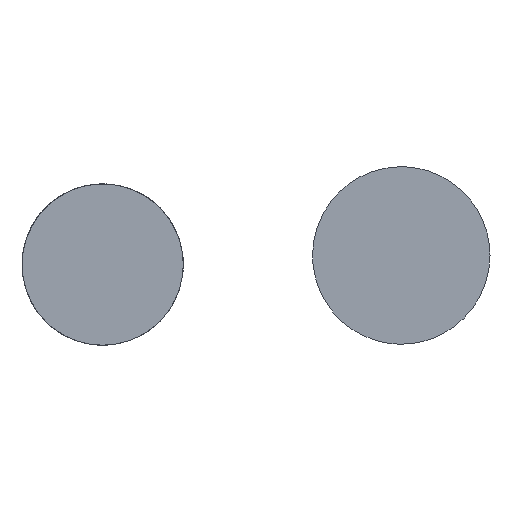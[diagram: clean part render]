
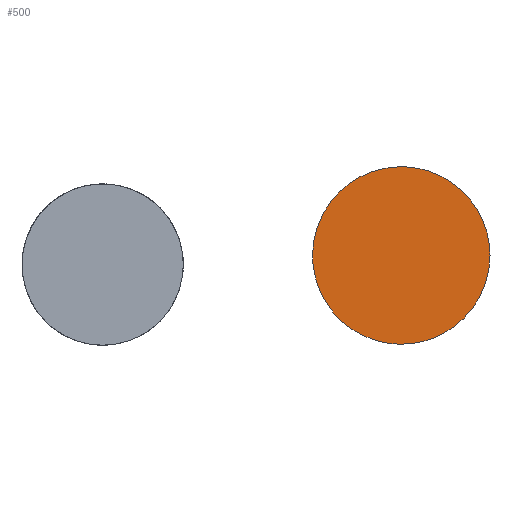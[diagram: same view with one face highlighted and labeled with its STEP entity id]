
A CAD part, top view. The second image highlights one B-rep face of the part: STEP entity #500.
In plain terms, the highlighted planar face has unit normal (0, 0, 1).
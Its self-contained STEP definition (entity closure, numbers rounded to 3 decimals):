
#500=ADVANCED_FACE('',(#1368),#14650,.T.);
#1368=FACE_OUTER_BOUND('',#2236,.T.);
#2236=EDGE_LOOP('',(#3175,#3176));
#3175=ORIENTED_EDGE('',*,*,#7818,.F.);
#3176=ORIENTED_EDGE('',*,*,#7815,.F.);
#7815=EDGE_CURVE('',#12589,#12591,#11634,.T.);
#7818=EDGE_CURVE('',#12591,#12589,#11636,.T.);
#11634=(
BOUNDED_CURVE()
B_SPLINE_CURVE(2,(#15491,#15492,#15493,#15494,#15495),.UNSPECIFIED.,.F.,
 .F.)
B_SPLINE_CURVE_WITH_KNOTS((3,2,3),(-3455.752,-2591.814,
-1727.876),.UNSPECIFIED.)
CURVE()
GEOMETRIC_REPRESENTATION_ITEM()
RATIONAL_B_SPLINE_CURVE((1.,0.707,1.,0.707,1.))
REPRESENTATION_ITEM('')
);
#11636=(
BOUNDED_CURVE()
B_SPLINE_CURVE(2,(#15503,#15504,#15505,#15506,#15507),.UNSPECIFIED.,.F.,
 .F.)
B_SPLINE_CURVE_WITH_KNOTS((3,2,3),(-1727.876,-863.938,
0.),.UNSPECIFIED.)
CURVE()
GEOMETRIC_REPRESENTATION_ITEM()
RATIONAL_B_SPLINE_CURVE((1.,0.707,1.,0.707,1.))
REPRESENTATION_ITEM('')
);
#12589=VERTEX_POINT('',#15481);
#12591=VERTEX_POINT('',#15483);
#14650=PLANE('',#14929);
#14929=AXIS2_PLACEMENT_3D('',#15469,#15193,$);
#15193=DIRECTION('',(0.,0.,1.));
#15469=CARTESIAN_POINT('',(2483.453,1861.433,17.433));
#15481=CARTESIAN_POINT('',(2345.953,2548.933,17.433));
#15483=CARTESIAN_POINT('',(1245.953,2548.933,17.433));
#15491=CARTESIAN_POINT('',(2345.953,2548.933,17.433));
#15492=CARTESIAN_POINT('',(2345.953,1998.933,17.433));
#15493=CARTESIAN_POINT('',(1795.953,1998.933,17.433));
#15494=CARTESIAN_POINT('',(1245.953,1998.933,17.433));
#15495=CARTESIAN_POINT('',(1245.953,2548.933,17.433));
#15503=CARTESIAN_POINT('',(1245.953,2548.933,17.433));
#15504=CARTESIAN_POINT('',(1245.953,3098.933,17.433));
#15505=CARTESIAN_POINT('',(1795.953,3098.933,17.433));
#15506=CARTESIAN_POINT('',(2345.953,3098.933,17.433));
#15507=CARTESIAN_POINT('',(2345.953,2548.933,17.433));
